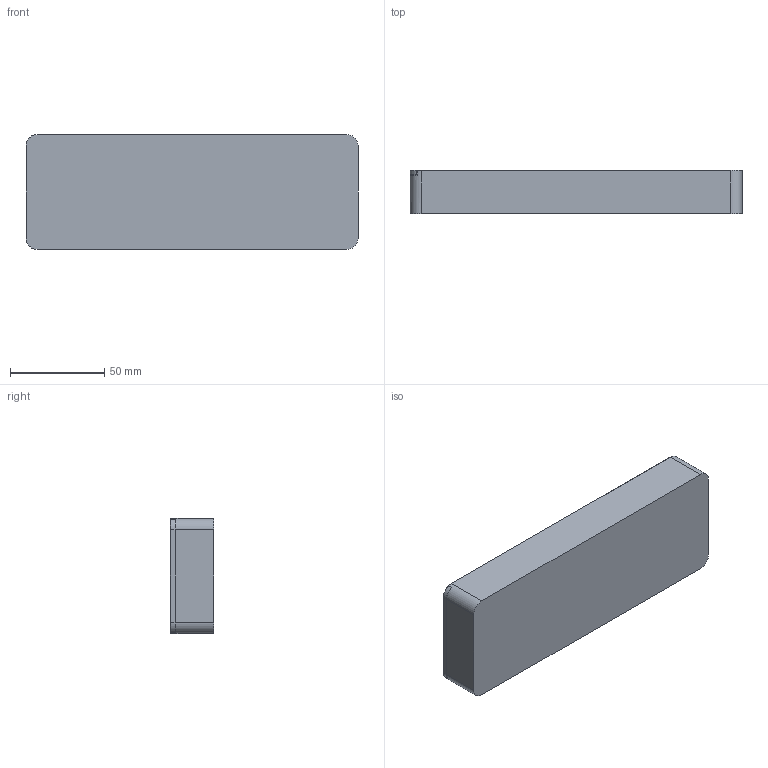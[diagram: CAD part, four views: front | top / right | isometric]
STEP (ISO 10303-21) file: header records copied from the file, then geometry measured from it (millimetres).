
FILE_DESCRIPTION(/* description */ (''),/* implementation_level */ '2;1');
FILE_NAME(/* name */ 'Cutlery F4 v28 - Combined.step',/* time_stamp */ '2023-10-26T15:20:00+11:00',/* author */ (''),/* organization */ (''),/* preprocessor_version */ 'ST-DEVELOPER v20',/* originating_system */ 'Autodesk Translation Framework v12.14.0.127',/* authorisation */ '');
FILE_SCHEMA (('AUTOMOTIVE_DESIGN { 1 0 10303 214 3 1 1 }'));
Length unit declared in the file: millimetre
Products named in the file (4): Cutlery F4; Box; Lid; Chevron
Assembly tree (3 placements, depth 3):
  Cutlery F4
    Box
    Lid
      Chevron
Bounding box: 176 x 23 x 61 mm (x, y, z)
Volume: 63774.1 mm3; surface area: 62898.3 mm2
Topology: 4 solids, 4 shells, 98 faces, 246 edges, 158 vertices
Faces by surface type: plane 66, cone 16, cylinder 16
Entity records: 3005 total; most frequent: CARTESIAN_POINT 543, DIRECTION 498, ORIENTED_EDGE 492, EDGE_CURVE 246, LINE 176, VECTOR 176, AXIS2_PLACEMENT_3D 161, VERTEX_POINT 158
